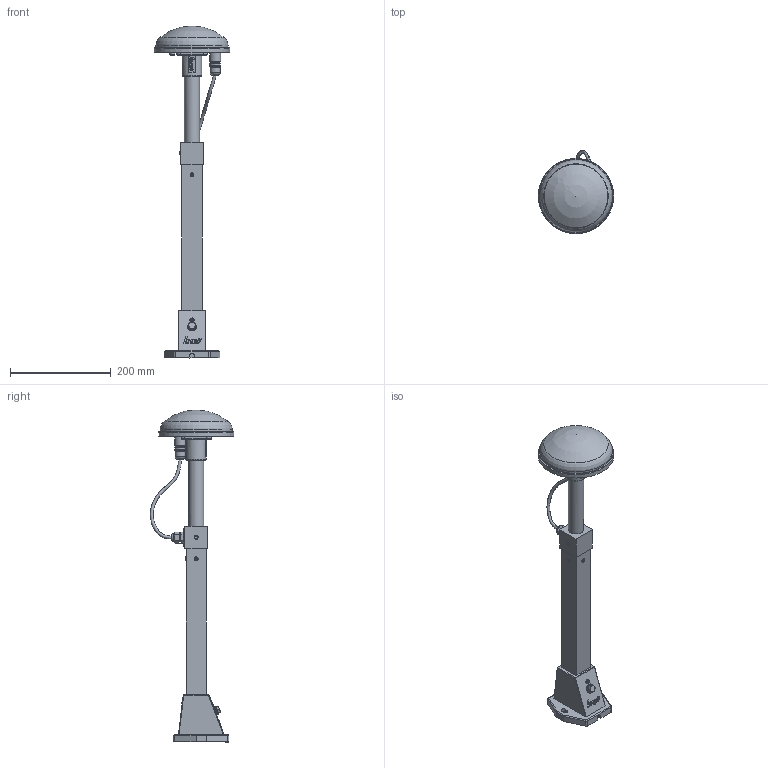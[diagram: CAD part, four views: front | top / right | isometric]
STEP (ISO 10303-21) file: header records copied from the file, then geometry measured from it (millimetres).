
FILE_DESCRIPTION(('FreeCAD Model'),'2;1');
FILE_NAME('Open CASCADE Shape Model','2022-03-23T12:19:53',('Author'),( ''),'Open CASCADE STEP processor 7.5','FreeCAD','Unknown');
FILE_SCHEMA(('AUTOMOTIVE_DESIGN { 1 0 10303 214 1 1 1 1 }'));
Length unit declared in the file: millimetre
Products named in the file (29): FG4490M00_gerade_mit_Heizung_v0102; GE449003_Alurohr-210mm; GE4418HK; Alu-Verbinder; GE441824_Alu-Verbinder; M8x10.0-ThreadedRod; ME0097_Blindstopfen; Vierkantrohr; GE441814_Vierkantrohr; ME1017_Blindniete001; ME1017_Blindniete002; ME1017_Blindniete003; ME1017_Blindniete004; Antennenfuss; M8x10.0-ThreadedRod001; M8x10.0-ThreadedRod002; Erdung; M8x20-Screw; Unterlegscheibe001; Unterlegscheibe002; _SFS FN 549 136412 Zahnscheibe DIN 6797 Federstahl   verzinkt blau 
J10.5; GE441811_Alu-Gussfuss; PG9; GE449003_Antenne_mit_Heizung_v0100; Deckel; Boden; Flansch; Heizung; Sweep001
Assembly tree (28 placements, depth 5):
  FG4490M00_gerade_mit_Heizung_v0102
    GE449003_Alurohr-210mm
    GE4418HK
      Alu-Verbinder
        GE441824_Alu-Verbinder
        M8x10.0-ThreadedRod
        ME0097_Blindstopfen
      Vierkantrohr
        GE441814_Vierkantrohr
        ME1017_Blindniete001
        ME1017_Blindniete002
        ME1017_Blindniete003
        ME1017_Blindniete004
      Antennenfuss
        M8x10.0-ThreadedRod001
        M8x10.0-ThreadedRod002
        Erdung
          M8x20-Screw
          Unterlegscheibe001
          Unterlegscheibe002
          _SFS FN 549 136412 Zahnscheibe DIN 6797 Federstahl   verzinkt blau 
J10.5
        GE441811_Alu-Gussfuss
    PG9
    GE449003_Antenne_mit_Heizung_v0100
      Deckel
      Boden
      Flansch
      Heizung
    Sweep001
Bounding box: 149.03 x 165.45 x 658 mm (x, y, z)
Volume: 666077.7 mm3; surface area: 364193.3 mm2
Topology: 21 solids, 22 shells, 693 faces, 1717 edges, 1109 vertices
Faces by surface type: plane 296, extrusion 168, cylinder 148, torus 28, bspline 18, sphere 17, cone 16, revolution 2
Full cylindrical faces by diameter (mm): 2 x4, 2.5 x4, 3 x4, 3.3 x1, 5 x4, 6 x7, 6.8 x3, 7 x9, 8 x2, 8.08 x3, 8.4 x2, 9.5 x1, 10 x1, 11.7 x1, 12 x1, 14 x1, 16 x4, 18 x2, 20 x1, 20.5 x1, 21 x1, 21.5 x1, 23.5 x1, 24 x1, 27 x1, 29 x1, 30 x1, 30.4 x1, 30.5 x4, 31 x1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
Entity records: 60292 total; most frequent: CARTESIAN_POINT 26502, DIRECTION 5541, VECTOR 3480, ORIENTED_EDGE 3416, PCURVE 3416, DEFINITIONAL_REPRESENTATION 3416, LINE 3312, EDGE_CURVE 1709
